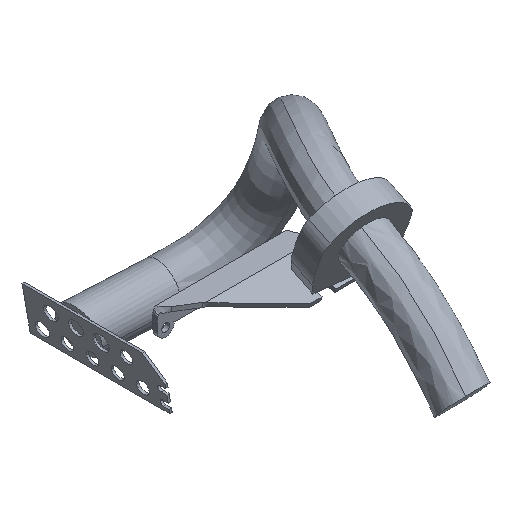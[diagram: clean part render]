
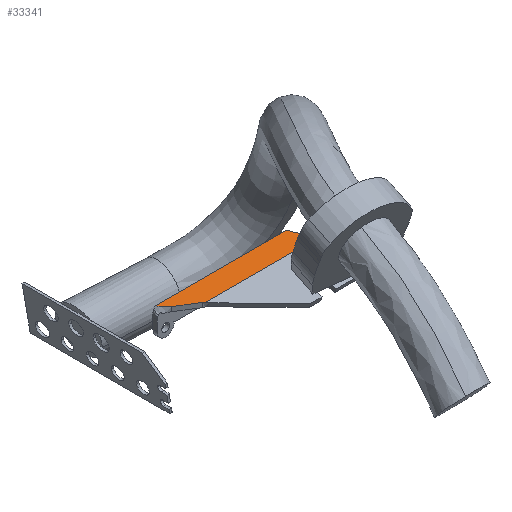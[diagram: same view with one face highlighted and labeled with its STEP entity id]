
A CAD part, isometric view. The second image highlights one B-rep face of the part: STEP entity #33341.
In plain terms, the highlighted planar face has unit normal (0, 0, 1).
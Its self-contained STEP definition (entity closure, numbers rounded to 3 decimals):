
#65 = VERTEX_POINT ( 'NONE', #16467 ) ;
#731 = VECTOR ( 'NONE', #25321, 1000. ) ;
#770 = DIRECTION ( 'NONE',  ( 0.848, -0.53, 0. ) ) ;
#840 = CARTESIAN_POINT ( 'NONE',  ( 537.381, -63.885, 3074. ) ) ;
#996 = CARTESIAN_POINT ( 'NONE',  ( 565.222, -92.063, 3074. ) ) ;
#1868 = CARTESIAN_POINT ( 'NONE',  ( 605., -53., 3074. ) ) ;
#2423 = CARTESIAN_POINT ( 'NONE',  ( 303.872, -60.264, 3074. ) ) ;
#2802 = B_SPLINE_CURVE_WITH_KNOTS ( 'NONE', 3,
 ( #25741, #7447, #15751, #33253, #18413, #2423, #21010, #5088, #23572, #7785, #26054, #10484 ),
 .UNSPECIFIED., .F., .F.,
 ( 4, 2, 2, 2, 2, 4 ),
 ( 0.088, 0.093, 0.099, 0.104, 0.106, 0.109 ),
 .UNSPECIFIED. ) ;
#2976 = ORIENTED_EDGE ( 'NONE', *, *, #19742, .F. ) ;
#3500 = CARTESIAN_POINT ( 'NONE',  ( 535.665, -59.907, 3074. ) ) ;
#4165 = EDGE_LOOP ( 'NONE', ( #27482, #17505, #15050, #23292, #29031, #25955, #2976, #22372 ) ) ;
#5088 = CARTESIAN_POINT ( 'NONE',  ( 301.239, -56.744, 3074. ) ) ;
#5185 = AXIS2_PLACEMENT_3D ( 'NONE', #24241, #16473, #13926 ) ;
#6184 = CARTESIAN_POINT ( 'NONE',  ( 534.304, -55.804, 3074. ) ) ;
#6869 = CARTESIAN_POINT ( 'NONE',  ( 628.792, 5.088, 3074. ) ) ;
#7447 = CARTESIAN_POINT ( 'NONE',  ( 311.255, -67.804, 3074. ) ) ;
#7785 = CARTESIAN_POINT ( 'NONE',  ( 299.825, -54.522, 3074. ) ) ;
#8172 = CARTESIAN_POINT ( 'NONE',  ( 566.181, -93., 3074. ) ) ;
#8638 = VECTOR ( 'NONE', #17973, 1000. ) ;
#8876 = CARTESIAN_POINT ( 'NONE',  ( 533.607, -53., 3074. ) ) ;
#8996 = CARTESIAN_POINT ( 'NONE',  ( 346.44, -90.179, 3074. ) ) ;
#9561 = DIRECTION ( 'NONE',  ( 0., 1., 0. ) ) ;
#10449 = VERTEX_POINT ( 'NONE', #13978 ) ;
#10484 = CARTESIAN_POINT ( 'NONE',  ( 298.973, -53., 3074. ) ) ;
#11187 = CARTESIAN_POINT ( 'NONE',  ( 312.547, -69., 3074. ) ) ;
#11209 = PLANE ( 'NONE',  #5185 ) ;
#11587 = CIRCLE ( 'NONE', #12398, 115.599 ) ;
#12262 = VERTEX_POINT ( 'NONE', #14977 ) ;
#12398 = AXIS2_PLACEMENT_3D ( 'NONE', #6869, #25210, #9561 ) ;
#13362 = B_SPLINE_CURVE_WITH_KNOTS ( 'NONE', 3,
 ( #14177, #29380, #16841, #840, #19470, #3500, #22059, #6184, #24590, #8876 ),
 .UNSPECIFIED., .F., .F.,
 ( 4, 2, 2, 2, 4 ),
 ( 0.017, 0.021, 0.025, 0.03, 0.034 ),
 .UNSPECIFIED. ) ;
#13926 = DIRECTION ( 'NONE',  ( 0., -1., 0. ) ) ;
#13978 = CARTESIAN_POINT ( 'NONE',  ( 533.607, -53., 3074. ) ) ;
#14177 = CARTESIAN_POINT ( 'NONE',  ( 540.056, -69., 3074. ) ) ;
#14414 = CARTESIAN_POINT ( 'NONE',  ( 348.461, -92.049, 3074. ) ) ;
#14977 = CARTESIAN_POINT ( 'NONE',  ( 349.457, -93., 3074. ) ) ;
#15019 = FACE_OUTER_BOUND ( 'NONE', #4165, .T. ) ;
#15050 = ORIENTED_EDGE ( 'NONE', *, *, #19638, .F. ) ;
#15751 = CARTESIAN_POINT ( 'NONE',  ( 309.963, -66.608, 3074. ) ) ;
#15764 = LINE ( 'NONE', #27988, #8638 ) ;
#15961 = EDGE_CURVE ( 'NONE', #17598, #10449, #13362, .T. ) ;
#16162 = EDGE_CURVE ( 'NONE', #65, #12262, #23005, .T. ) ;
#16467 = CARTESIAN_POINT ( 'NONE',  ( 346.44, -90.179, 3074. ) ) ;
#16473 = DIRECTION ( 'NONE',  ( 0., 0., -1. ) ) ;
#16841 = CARTESIAN_POINT ( 'NONE',  ( 538.677, -66.464, 3074. ) ) ;
#17474 = LINE ( 'NONE', #21543, #32277 ) ;
#17505 = ORIENTED_EDGE ( 'NONE', *, *, #15961, .T. ) ;
#17598 = VERTEX_POINT ( 'NONE', #25251 ) ;
#17973 = DIRECTION ( 'NONE',  ( -1., 0., 0. ) ) ;
#18413 = CARTESIAN_POINT ( 'NONE',  ( 306.208, -62.892, 3074. ) ) ;
#19249 = EDGE_CURVE ( 'NONE', #32058, #17598, #11587, .T. ) ;
#19470 = CARTESIAN_POINT ( 'NONE',  ( 536.771, -62.575, 3074. ) ) ;
#19618 = CARTESIAN_POINT ( 'NONE',  ( 566.181, -93., 3074. ) ) ;
#19638 = EDGE_CURVE ( 'NONE', #22813, #10449, #21894, .T. ) ;
#19742 = EDGE_CURVE ( 'NONE', #23594, #12262, #15764, .T. ) ;
#19929 = EDGE_CURVE ( 'NONE', #20574, #22813, #2802, .T. ) ;
#20574 = VERTEX_POINT ( 'NONE', #11187 ) ;
#21010 = CARTESIAN_POINT ( 'NONE',  ( 302.769, -58.897, 3074. ) ) ;
#21543 = CARTESIAN_POINT ( 'NONE',  ( 295., -58.035, 3074. ) ) ;
#21894 = LINE ( 'NONE', #1868, #731 ) ;
#22059 = CARTESIAN_POINT ( 'NONE',  ( 535.171, -58.553, 3074. ) ) ;
#22097 = CARTESIAN_POINT ( 'NONE',  ( 563.315, -90.179, 3074. ) ) ;
#22100 = EDGE_CURVE ( 'NONE', #20574, #65, #17474, .T. ) ;
#22171 = CARTESIAN_POINT ( 'NONE',  ( 563.315, -90.179, 3074. ) ) ;
#22175 = CARTESIAN_POINT ( 'NONE',  ( 347.45, -91.114, 3074. ) ) ;
#22300 = EDGE_CURVE ( 'NONE', #32058, #23594, #32342, .T. ) ;
#22372 = ORIENTED_EDGE ( 'NONE', *, *, #22300, .F. ) ;
#22813 = VERTEX_POINT ( 'NONE', #30662 ) ;
#23005 = B_SPLINE_CURVE_WITH_KNOTS ( 'NONE', 3,
 ( #8996, #22175, #14414, #32011 ),
 .UNSPECIFIED., .F., .F.,
 ( 4, 4 ),
 ( 0.033, 0.037 ),
 .UNSPECIFIED. ) ;
#23292 = ORIENTED_EDGE ( 'NONE', *, *, #19929, .F. ) ;
#23572 = CARTESIAN_POINT ( 'NONE',  ( 300.75, -56.01, 3074. ) ) ;
#23594 = VERTEX_POINT ( 'NONE', #8172 ) ;
#24241 = CARTESIAN_POINT ( 'NONE',  ( 605., -53., 3074. ) ) ;
#24590 = CARTESIAN_POINT ( 'NONE',  ( 533.93, -54.406, 3074. ) ) ;
#24627 = CARTESIAN_POINT ( 'NONE',  ( 564.254, -91.135, 3074. ) ) ;
#25210 = DIRECTION ( 'NONE',  ( 0., 0., -1. ) ) ;
#25251 = CARTESIAN_POINT ( 'NONE',  ( 540.056, -69., 3074. ) ) ;
#25321 = DIRECTION ( 'NONE',  ( 1., 0., 0. ) ) ;
#25741 = CARTESIAN_POINT ( 'NONE',  ( 312.547, -69., 3074. ) ) ;
#25955 = ORIENTED_EDGE ( 'NONE', *, *, #16162, .T. ) ;
#26054 = CARTESIAN_POINT ( 'NONE',  ( 299.387, -53.767, 3074. ) ) ;
#27482 = ORIENTED_EDGE ( 'NONE', *, *, #19249, .T. ) ;
#27988 = CARTESIAN_POINT ( 'NONE',  ( 605., -93., 3074. ) ) ;
#29031 = ORIENTED_EDGE ( 'NONE', *, *, #22100, .T. ) ;
#29380 = CARTESIAN_POINT ( 'NONE',  ( 539.364, -67.733, 3074. ) ) ;
#30662 = CARTESIAN_POINT ( 'NONE',  ( 298.973, -53., 3074. ) ) ;
#32011 = CARTESIAN_POINT ( 'NONE',  ( 349.457, -93., 3074. ) ) ;
#32058 = VERTEX_POINT ( 'NONE', #22171 ) ;
#32277 = VECTOR ( 'NONE', #770, 1000. ) ;
#32342 = B_SPLINE_CURVE_WITH_KNOTS ( 'NONE', 3,
 ( #22097, #24627, #996, #19618 ),
 .UNSPECIFIED., .F., .F.,
 ( 4, 4 ),
 ( 0.022, 0.026 ),
 .UNSPECIFIED. ) ;
#33253 = CARTESIAN_POINT ( 'NONE',  ( 307.441, -64.153, 3074. ) ) ;
#33341 = ADVANCED_FACE ( 'NONE', ( #15019 ), #11209, .F. ) ;
